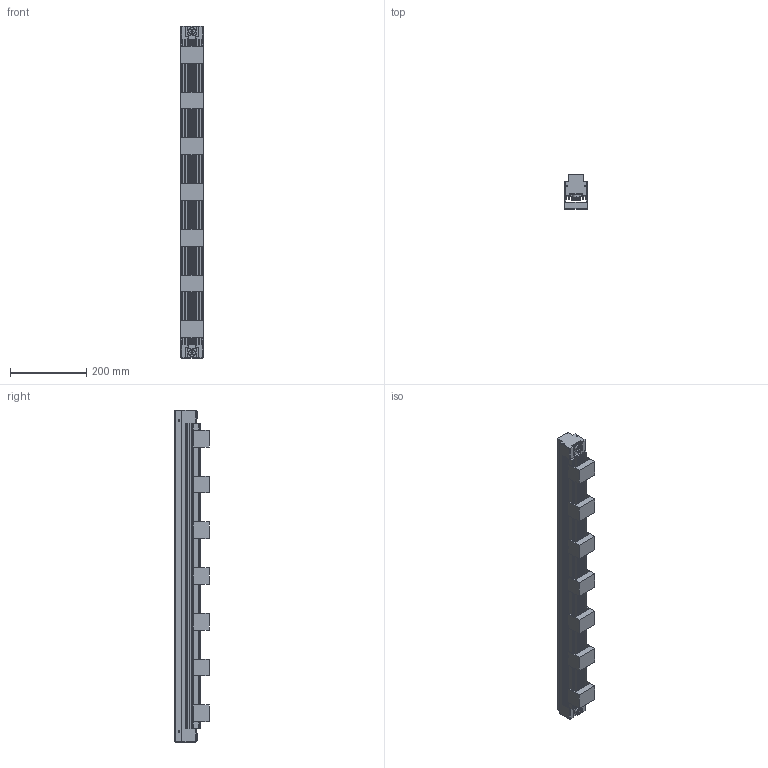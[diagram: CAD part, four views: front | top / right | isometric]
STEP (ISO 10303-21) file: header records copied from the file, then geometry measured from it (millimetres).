
FILE_DESCRIPTION((''),'2;1');
FILE_NAME('MV-LTHS-800-W','2019-09-19T',('win7'),(''),'PRO/ENGINEER BY PARAMETRIC TECHNOLOGY CORPORATION, 2010100','PRO/ENGINEER BY PARAMETRIC TECHNOLOGY CORPORATION, 2010100','');
FILE_SCHEMA(('CONFIG_CONTROL_DESIGN'));
Length unit declared in the file: millimetre
Products named in the file (1): MV-LTHS-800-W
Bounding box: 58 x 90.1 x 870 mm (x, y, z)
Volume: 2856375.5 mm3; surface area: 459888.7 mm2
Topology: 1 solids, 10 shells, 437 faces, 1154 edges, 721 vertices
Faces by surface type: plane 302, cylinder 105, cone 30
Entity records: 13188 total; most frequent: CARTESIAN_POINT 2298, DIRECTION 2242, ORIENTED_EDGE 2216, EDGE_CURVE 1128, VECTOR 888, LINE 888, VERTEX_POINT 721, AXIS2_PLACEMENT_3D 677
